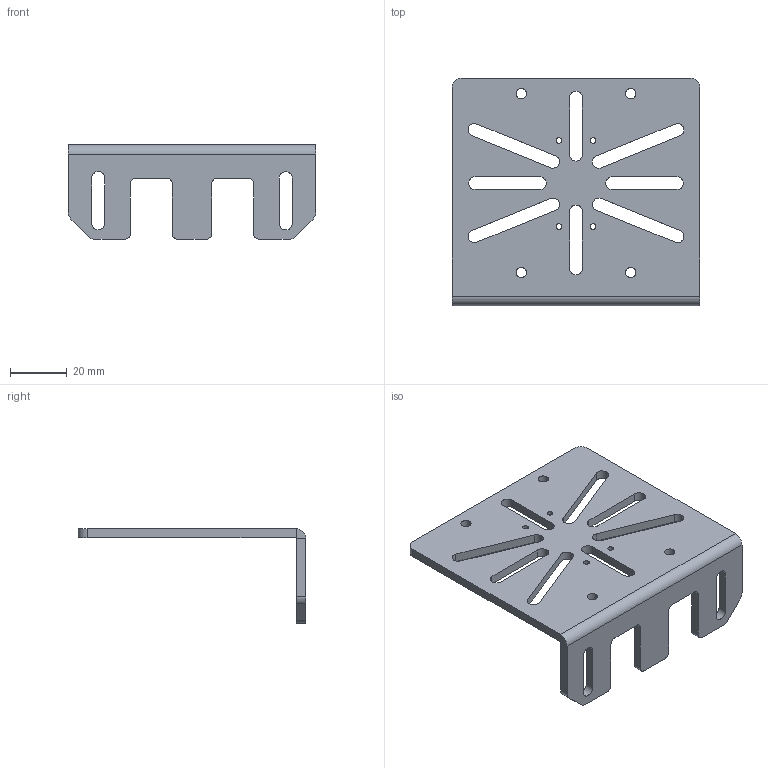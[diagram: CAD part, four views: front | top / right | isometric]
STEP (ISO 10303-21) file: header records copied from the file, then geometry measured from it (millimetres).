
FILE_DESCRIPTION (( 'STEP AP214' ), '1' );
FILE_NAME ('BKT0038.STEP', '2022-07-11T12:46:44', ( '' ), ( '' ), 'SwSTEP 2.0', 'SolidWorks 2022', '' );
FILE_SCHEMA (( 'AUTOMOTIVE_DESIGN' ));
Length unit declared in the file: millimetre
Products named in the file (1): BKT0038
Bounding box: 87.01 x 80 x 33.18 mm (x, y, z)
Volume: 23934.6 mm3; surface area: 18694.4 mm2
Topology: 1 solids, 1 shells, 102 faces, 292 edges, 192 vertices
Faces by surface type: cylinder 60, plane 42
Entity records: 3478 total; most frequent: DIRECTION 618, CARTESIAN_POINT 587, ORIENTED_EDGE 584, EDGE_CURVE 292, AXIS2_PLACEMENT_3D 223, VERTEX_POINT 192, VECTOR 172, LINE 172
